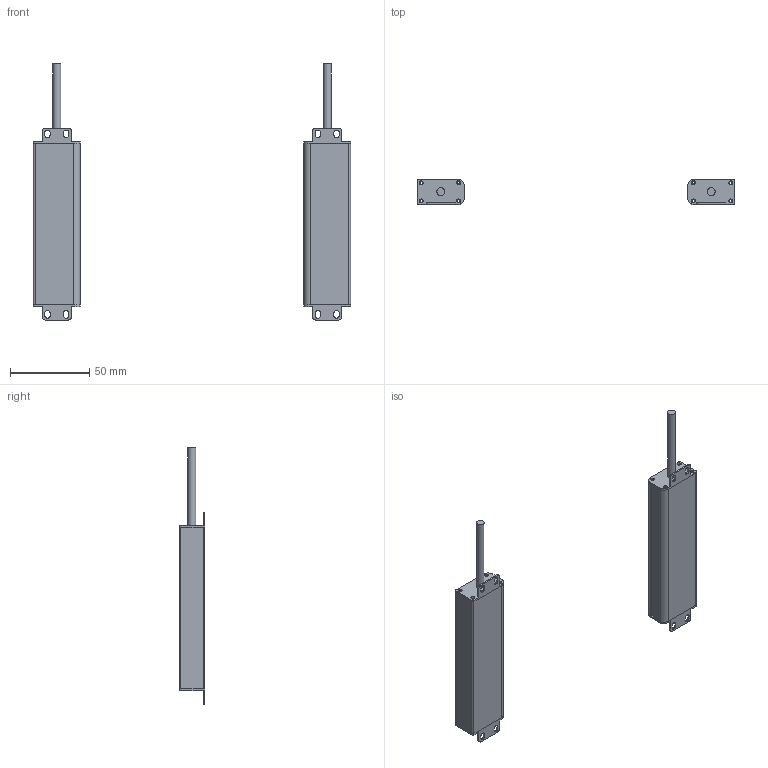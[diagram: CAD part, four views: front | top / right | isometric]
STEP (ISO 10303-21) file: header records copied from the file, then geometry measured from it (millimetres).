
FILE_DESCRIPTION(/* description */ (''),/* implementation_level */ '2;1');
FILE_NAME(/* name */ '1010（16X30w).stp',/* time_stamp */ '2020-07-21T11:49:00+08:00',/* author */ (''),/* organization */ (''),/* preprocessor_version */ 'ST-DEVELOPER v16',/* originating_system */ 'SIEMENS PLM Software NX 10.0',/* authorisation */ '');
FILE_SCHEMA (('AP203_CONFIGURATION_CONTROLLED_3D_DESIGN_OF_MECHANICAL_PARTS_AND_ASSEMBLIES_MIM_LF { 1 0 10303 403 2 1 2}'));
Length unit declared in the file: millimetre
Products named in the file (1): Admi1D6CCE1Dsrbl
Bounding box: 200 x 16 x 161.5 mm (x, y, z)
Volume: 32994.7 mm3; surface area: 49713.7 mm2
Topology: 10 solids, 10 shells, 296 faces, 830 edges, 554 vertices
Faces by surface type: plane 160, cylinder 136
Full cylindrical faces by diameter (mm): 5 x2
Entity records: 9760 total; most frequent: DIRECTION 1692, CARTESIAN_POINT 1675, ORIENTED_EDGE 1652, EDGE_CURVE 826, AXIS2_PLACEMENT_3D 569, LINE 554, VECTOR 554, VERTEX_POINT 552
